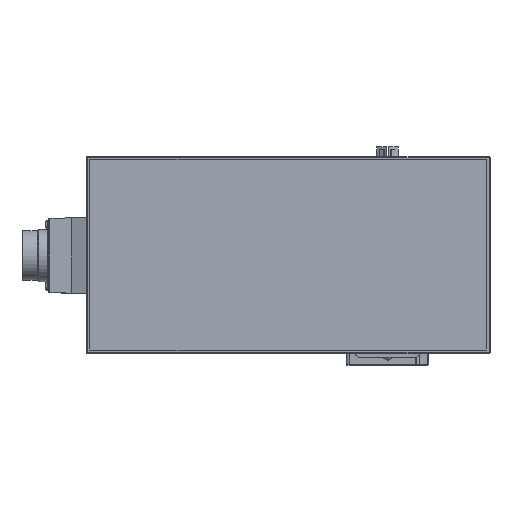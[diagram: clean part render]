
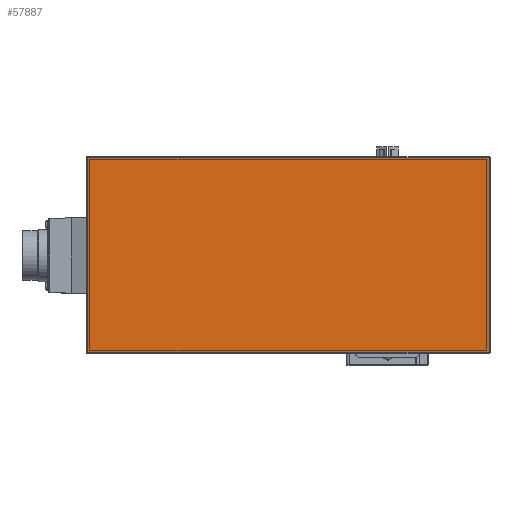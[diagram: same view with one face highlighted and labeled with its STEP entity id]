
A CAD part, top view. The second image highlights one B-rep face of the part: STEP entity #57887.
In plain terms, the highlighted planar face has unit normal (0, 0, 1).
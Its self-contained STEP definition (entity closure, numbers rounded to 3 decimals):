
#57848=CARTESIAN_POINT('',(-60.,62.5,559.5));
#57849=DIRECTION('',(0.,1.,0.));
#57850=DIRECTION('',(0.,-0.,1.));
#57851=AXIS2_PLACEMENT_3D('',#57848,#57850,#57849);
#57852=PLANE('',#57851);
#57853=CARTESIAN_POINT('',(-181.5,-59.,559.5));
#57854=VERTEX_POINT('',#57853);
#57855=CARTESIAN_POINT('',(61.5,-59.,559.5));
#57856=VERTEX_POINT('',#57855);
#57857=CARTESIAN_POINT('',(-181.5,-59.,559.5));
#57858=DIRECTION('',(1.,0.,0.));
#57859=VECTOR('',#57858,243.);
#57860=LINE('',#57857,#57859);
#57861=EDGE_CURVE('',#57854,#57856,#57860,.T.);
#57862=ORIENTED_EDGE('E7986',*,*,#57861,.T.);
#57863=CARTESIAN_POINT('',(61.5,59.,559.5));
#57864=VERTEX_POINT('',#57863);
#57865=CARTESIAN_POINT('',(61.5,-59.,559.5));
#57866=DIRECTION('',(0.,1.,0.));
#57867=VECTOR('',#57866,118.);
#57868=LINE('',#57865,#57867);
#57869=EDGE_CURVE('',#57856,#57864,#57868,.T.);
#57870=ORIENTED_EDGE('E7987',*,*,#57869,.T.);
#57871=CARTESIAN_POINT('',(-181.5,59.,559.5));
#57872=VERTEX_POINT('',#57871);
#57873=CARTESIAN_POINT('',(61.5,59.,559.5));
#57874=DIRECTION('',(-1.,0.,0.));
#57875=VECTOR('',#57874,243.);
#57876=LINE('',#57873,#57875);
#57877=EDGE_CURVE('',#57864,#57872,#57876,.T.);
#57878=ORIENTED_EDGE('E7988',*,*,#57877,.T.);
#57879=CARTESIAN_POINT('',(-181.5,59.,559.5));
#57880=DIRECTION('',(0.,-1.,0.));
#57881=VECTOR('',#57880,118.);
#57882=LINE('',#57879,#57881);
#57883=EDGE_CURVE('',#57872,#57854,#57882,.T.);
#57884=ORIENTED_EDGE('E7989',*,*,#57883,.T.);
#57885=EDGE_LOOP('',(#57862,#57870,#57878,#57884));
#57886=FACE_OUTER_BOUND('',#57885,.T.);
#57887=ADVANCED_FACE('F3120',(#57886),#57852,.T.);
